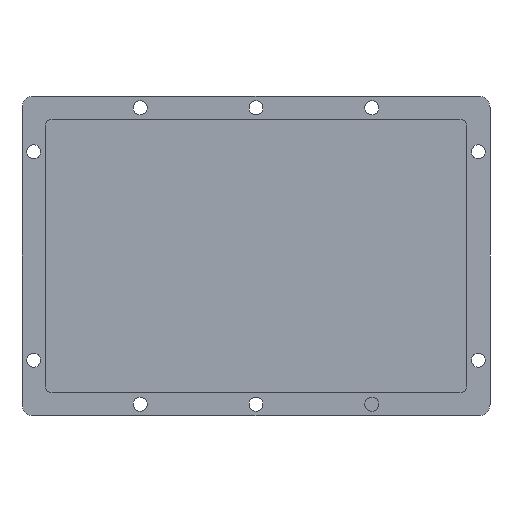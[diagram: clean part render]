
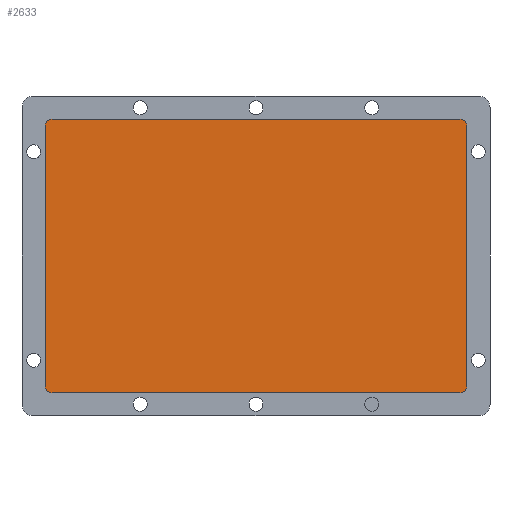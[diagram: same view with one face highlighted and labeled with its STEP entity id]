
A CAD part, front view. The second image highlights one B-rep face of the part: STEP entity #2633.
In plain terms, the highlighted planar face has unit normal (0, -1, 0).
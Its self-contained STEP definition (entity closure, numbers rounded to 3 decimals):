
#186=PLANE('',#2922);
#300=FACE_OUTER_BOUND('',#446,.T.);
#446=EDGE_LOOP('',(#1893,#1894,#1895,#1896,#1897,#1898,#1899,#1900));
#613=LINE('',#3977,#892);
#619=LINE('',#3992,#898);
#621=LINE('',#3998,#900);
#622=LINE('',#4000,#901);
#892=VECTOR('',#3185,10.);
#898=VECTOR('',#3201,10.);
#900=VECTOR('',#3209,10.);
#901=VECTOR('',#3212,10.);
#1166=CIRCLE('',#2907,3.);
#1170=CIRCLE('',#2914,3.);
#1171=CIRCLE('',#2916,3.);
#1172=CIRCLE('',#2919,3.);
#1243=VERTEX_POINT('',#3956);
#1244=VERTEX_POINT('',#3958);
#1251=VERTEX_POINT('',#3976);
#1252=VERTEX_POINT('',#3980);
#1253=VERTEX_POINT('',#3984);
#1254=VERTEX_POINT('',#3986);
#1255=VERTEX_POINT('',#3990);
#1256=VERTEX_POINT('',#3994);
#1487=EDGE_CURVE('',#1243,#1244,#1166,.T.);
#1496=EDGE_CURVE('',#1244,#1251,#613,.T.);
#1498=EDGE_CURVE('',#1251,#1252,#1170,.T.);
#1501=EDGE_CURVE('',#1253,#1254,#1171,.T.);
#1504=EDGE_CURVE('',#1255,#1253,#619,.T.);
#1506=EDGE_CURVE('',#1256,#1255,#1172,.T.);
#1507=EDGE_CURVE('',#1252,#1256,#621,.T.);
#1508=EDGE_CURVE('',#1254,#1243,#622,.T.);
#1893=ORIENTED_EDGE('',*,*,#1487,.F.);
#1894=ORIENTED_EDGE('',*,*,#1508,.F.);
#1895=ORIENTED_EDGE('',*,*,#1501,.F.);
#1896=ORIENTED_EDGE('',*,*,#1504,.F.);
#1897=ORIENTED_EDGE('',*,*,#1506,.F.);
#1898=ORIENTED_EDGE('',*,*,#1507,.F.);
#1899=ORIENTED_EDGE('',*,*,#1498,.F.);
#1900=ORIENTED_EDGE('',*,*,#1496,.F.);
#2633=ADVANCED_FACE('',(#300),#186,.F.);
#2907=AXIS2_PLACEMENT_3D('',#3959,#3168,#3169);
#2914=AXIS2_PLACEMENT_3D('',#3981,#3189,#3190);
#2916=AXIS2_PLACEMENT_3D('',#3987,#3195,#3196);
#2919=AXIS2_PLACEMENT_3D('',#3996,#3205,#3206);
#2922=AXIS2_PLACEMENT_3D('',#4001,#3213,#3214);
#3168=DIRECTION('center_axis',(0.,1.,0.));
#3169=DIRECTION('ref_axis',(-0.707,0.,-0.707));
#3185=DIRECTION('',(0.,0.,1.));
#3189=DIRECTION('center_axis',(0.,1.,0.));
#3190=DIRECTION('ref_axis',(-0.707,0.,0.707));
#3195=DIRECTION('center_axis',(0.,1.,0.));
#3196=DIRECTION('ref_axis',(0.707,0.,-0.707));
#3201=DIRECTION('',(0.,0.,-1.));
#3205=DIRECTION('center_axis',(0.,1.,0.));
#3206=DIRECTION('ref_axis',(0.707,0.,0.707));
#3209=DIRECTION('',(1.,0.,0.));
#3212=DIRECTION('',(-1.,0.,0.));
#3213=DIRECTION('center_axis',(0.,1.,0.));
#3214=DIRECTION('ref_axis',(1.,0.,0.));
#3956=CARTESIAN_POINT('',(-88.,0.,-59.));
#3958=CARTESIAN_POINT('',(-91.,0.,-56.));
#3959=CARTESIAN_POINT('Origin',(-88.,0.,-56.));
#3976=CARTESIAN_POINT('',(-91.,0.,56.));
#3977=CARTESIAN_POINT('',(-91.,0.,-59.));
#3980=CARTESIAN_POINT('',(-88.,0.,59.));
#3981=CARTESIAN_POINT('Origin',(-88.,0.,56.));
#3984=CARTESIAN_POINT('',(91.,0.,-56.));
#3986=CARTESIAN_POINT('',(88.,0.,-59.));
#3987=CARTESIAN_POINT('Origin',(88.,0.,-56.));
#3990=CARTESIAN_POINT('',(91.,0.,56.));
#3992=CARTESIAN_POINT('',(91.,0.,59.));
#3994=CARTESIAN_POINT('',(88.,0.,59.));
#3996=CARTESIAN_POINT('Origin',(88.,0.,56.));
#3998=CARTESIAN_POINT('',(-91.,0.,59.));
#4000=CARTESIAN_POINT('',(91.,0.,-59.));
#4001=CARTESIAN_POINT('Origin',(0.,0.,0.));
